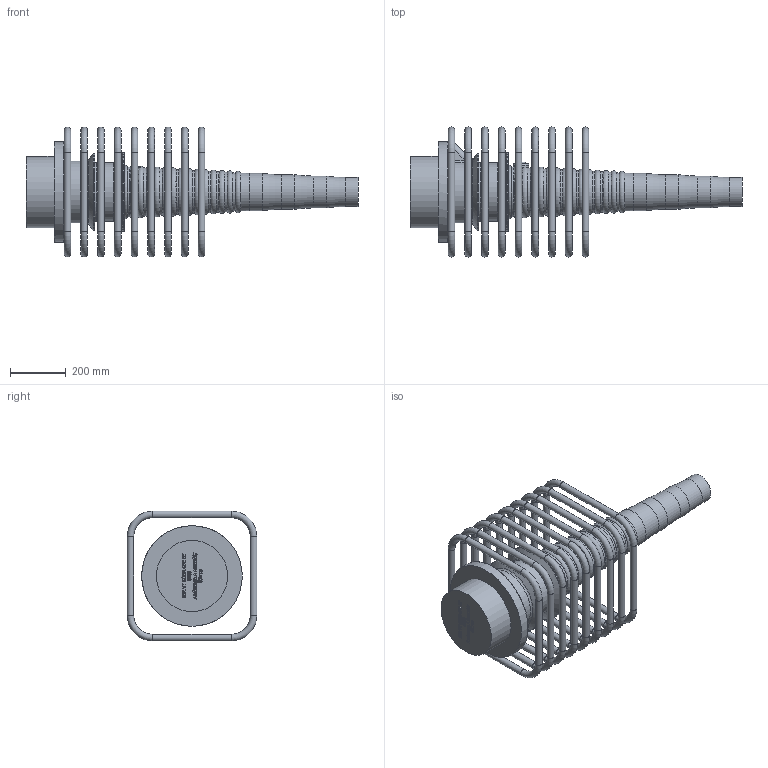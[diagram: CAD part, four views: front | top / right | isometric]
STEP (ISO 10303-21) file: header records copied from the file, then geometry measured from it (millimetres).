
FILE_DESCRIPTION(/* description */ (''),/* implementation_level */ '2;1');
FILE_NAME(/* name */ 'BBR VT CONA CMI BT 3106_Anchorage A Assembly_CS-43,35_Stirrup.stp',/* time_stamp */ '2025-04-29T08:32:53+02:00',/* author */ ('tk'),/* organization */ (''),/* preprocessor_version */ 'ST-DEVELOPER v20',/* originating_system */ 'Autodesk Inventor 2024',/* authorisation */ '');
FILE_SCHEMA (('AUTOMOTIVE_DESIGN { 1 0 10303 214 3 1 1 }'));
Length unit declared in the file: millimetre
Products named in the file (1): BBR VT CONA CMI BT 3106_Anchorage A Assembly_CS-43,35_Stirrup
Bounding box: 1188.17 x 465 x 465 mm (x, y, z)
Volume: 37760153.7 mm3; surface area: 2039598.5 mm2
Topology: 10 solids, 10 shells, 914 faces, 2451 edges, 1601 vertices
Faces by surface type: plane 386, bspline 353, torus 100, cylinder 56, cone 17, sphere 2
Full cylindrical faces by diameter (mm): 24 x36, 34 x1, 57 x1, 104 x1, 114 x1, 124 x1, 134 x1, 208 x1, 255 x1, 279 x1, 283 x1, 360 x1
Entity records: 33029 total; most frequent: CARTESIAN_POINT 11305, ORIENTED_EDGE 4890, DIRECTION 3236, EDGE_CURVE 2445, VERTEX_POINT 1601, LINE 1346, VECTOR 1346, EDGE_LOOP 982
